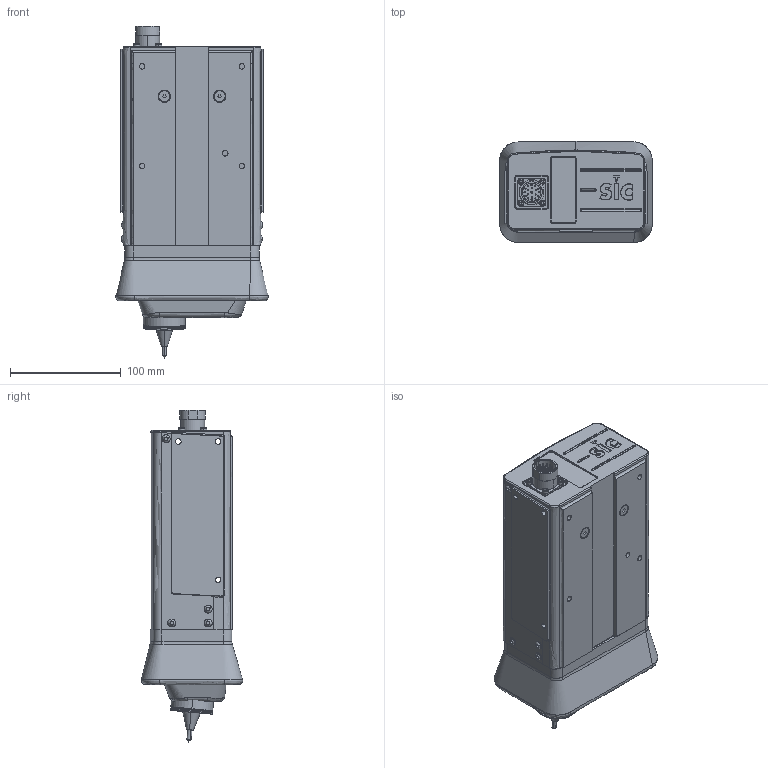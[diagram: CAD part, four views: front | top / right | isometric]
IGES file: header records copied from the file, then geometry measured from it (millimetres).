
Start section: SolidWorks IGES file using analytic representation for surfaces
Global section: file name: V:\04 - Produits\112 - i52\02 - Diffusion commerciale\i52 origine.IGS; native system: SolidWorks 2006 by SolidWorks Corporation; preprocessor: SolidWorks 2006 by SolidWorks Corporation; author: sic45; date: 080529.113014; units: millimetre
Bounding box: 137.83 x 91.56 x 300.05 mm (x, y, z)
Surface area: 143101.6 mm2 (no closed solid volume)
Topology: 0 solids, 0 shells, 987 faces, 9399 edges, 9395 vertices
Faces by surface type: revolution 504, bspline 483
